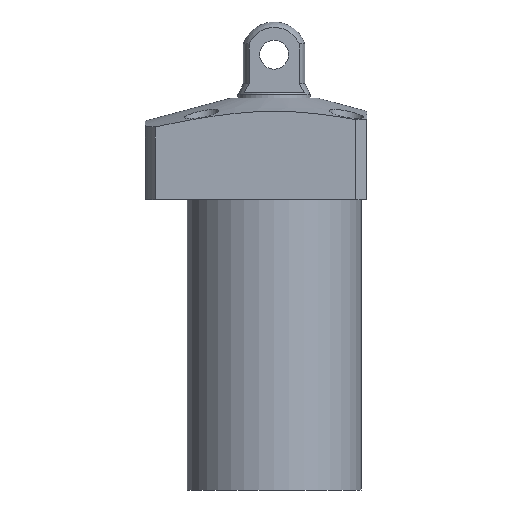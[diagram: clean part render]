
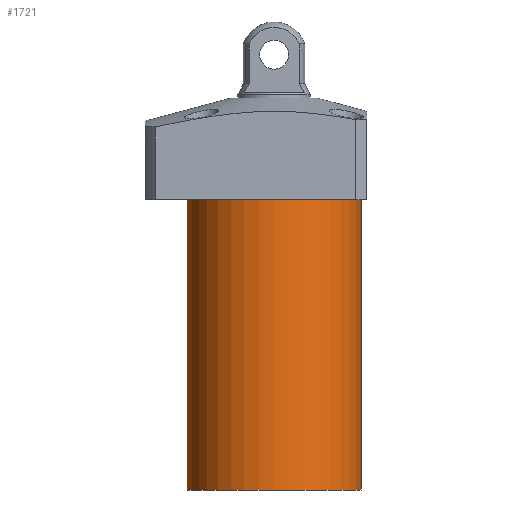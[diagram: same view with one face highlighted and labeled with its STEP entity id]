
A CAD part, front view. The second image highlights one B-rep face of the part: STEP entity #1721.
In plain terms, the highlighted cylindrical face has radius 24 mm (diameter 48 mm), a partial arc.
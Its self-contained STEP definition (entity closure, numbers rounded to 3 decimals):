
#4 = CARTESIAN_POINT ( 'NONE',  ( 24., 0., -14. ) ) ;
#126 = CYLINDRICAL_SURFACE ( 'NONE', #837, 24. ) ;
#187 = VERTEX_POINT ( 'NONE', #2183 ) ;
#325 = EDGE_CURVE ( 'NONE', #187, #1973, #343, .T. ) ;
#343 = LINE ( 'NONE', #942, #1226 ) ;
#373 = CARTESIAN_POINT ( 'NONE',  ( 24., 0., -94. ) ) ;
#389 = EDGE_CURVE ( 'NONE', #1326, #1973, #743, .T. ) ;
#448 = ORIENTED_EDGE ( 'NONE', *, *, #1918, .T. ) ;
#460 = DIRECTION ( 'NONE',  ( 1., 0., 0. ) ) ;
#507 = EDGE_LOOP ( 'NONE', ( #1609, #1905, #448, #904 ) ) ;
#594 = EDGE_CURVE ( 'NONE', #1014, #187, #1580, .T. ) ;
#743 = CIRCLE ( 'NONE', #1129, 24. ) ;
#837 = AXIS2_PLACEMENT_3D ( 'NONE', #1577, #843, #1598 ) ;
#843 = DIRECTION ( 'NONE',  ( 0., 0., 1. ) ) ;
#904 = ORIENTED_EDGE ( 'NONE', *, *, #389, .T. ) ;
#942 = CARTESIAN_POINT ( 'NONE',  ( -24., 0., -94. ) ) ;
#987 = CARTESIAN_POINT ( 'NONE',  ( 24., 0., -94. ) ) ;
#1014 = VERTEX_POINT ( 'NONE', #987 ) ;
#1129 = AXIS2_PLACEMENT_3D ( 'NONE', #1862, #1156, #460 ) ;
#1156 = DIRECTION ( 'NONE',  ( 0., 0., -1. ) ) ;
#1225 = DIRECTION ( 'NONE',  ( -1., 0., 0. ) ) ;
#1226 = VECTOR ( 'NONE', #1696, 1000. ) ;
#1309 = FACE_OUTER_BOUND ( 'NONE', #507, .T. ) ;
#1326 = VERTEX_POINT ( 'NONE', #4 ) ;
#1577 = CARTESIAN_POINT ( 'NONE',  ( 0., 0., -94. ) ) ;
#1580 = CIRCLE ( 'NONE', #1611, 24. ) ;
#1598 = DIRECTION ( 'NONE',  ( 1., 0., 0. ) ) ;
#1609 = ORIENTED_EDGE ( 'NONE', *, *, #325, .F. ) ;
#1611 = AXIS2_PLACEMENT_3D ( 'NONE', #1955, #1976, #1225 ) ;
#1696 = DIRECTION ( 'NONE',  ( 0., 0., 1. ) ) ;
#1721 = ADVANCED_FACE ( 'NONE', ( #1309 ), #126, .T. ) ;
#1803 = CARTESIAN_POINT ( 'NONE',  ( -24., 0., -14. ) ) ;
#1849 = VECTOR ( 'NONE', #1989, 1000. ) ;
#1862 = CARTESIAN_POINT ( 'NONE',  ( 0., 0., -14. ) ) ;
#1905 = ORIENTED_EDGE ( 'NONE', *, *, #594, .F. ) ;
#1918 = EDGE_CURVE ( 'NONE', #1014, #1326, #1936, .T. ) ;
#1936 = LINE ( 'NONE', #373, #1849 ) ;
#1955 = CARTESIAN_POINT ( 'NONE',  ( 0., 0., -94. ) ) ;
#1973 = VERTEX_POINT ( 'NONE', #1803 ) ;
#1976 = DIRECTION ( 'NONE',  ( 0., 0., -1. ) ) ;
#1989 = DIRECTION ( 'NONE',  ( 0., 0., 1. ) ) ;
#2183 = CARTESIAN_POINT ( 'NONE',  ( -24., 0., -94. ) ) ;
